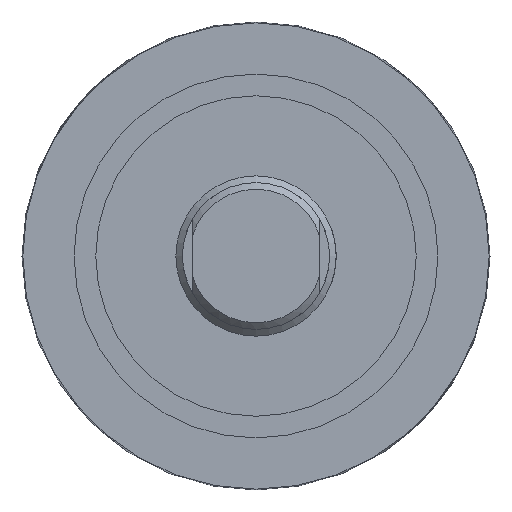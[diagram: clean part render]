
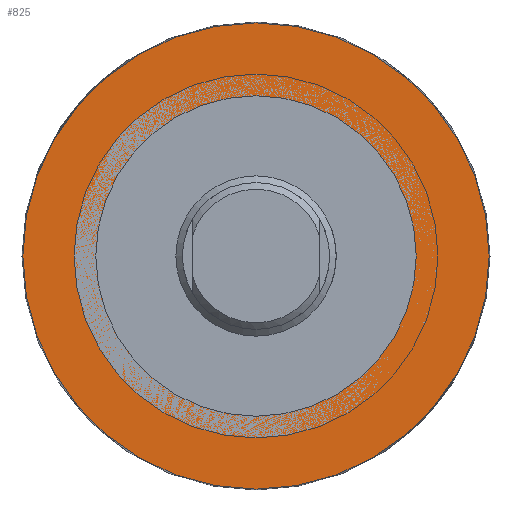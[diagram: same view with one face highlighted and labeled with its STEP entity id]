
A CAD part, left-side view. The second image highlights one B-rep face of the part: STEP entity #825.
In plain terms, the highlighted planar face has unit normal (-1, 0, 0).
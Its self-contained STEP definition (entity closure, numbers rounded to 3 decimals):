
#156=FACE_OUTER_BOUND('',#213,.T.);
#213=EDGE_LOOP('',(#610));
#273=CIRCLE('',#933,34.918);
#351=VERTEX_POINT('',#1468);
#446=EDGE_CURVE('',#351,#351,#273,.T.);
#610=ORIENTED_EDGE('',*,*,#446,.T.);
#725=PLANE('',#932);
#825=ADVANCED_FACE('',(#156),#725,.T.);
#932=AXIS2_PLACEMENT_3D('',#1467,#1129,#1130);
#933=AXIS2_PLACEMENT_3D('',#1469,#1131,#1132);
#1129=DIRECTION('center_axis',(-1.,0.,0.));
#1130=DIRECTION('ref_axis',(0.,0.,-1.));
#1131=DIRECTION('center_axis',(-1.,0.,0.));
#1132=DIRECTION('ref_axis',(0.,0.,1.));
#1467=CARTESIAN_POINT('Origin',(60.5,-31.059,0.));
#1468=CARTESIAN_POINT('',(60.5,0.,-34.918));
#1469=CARTESIAN_POINT('Origin',(60.5,0.,0.));
